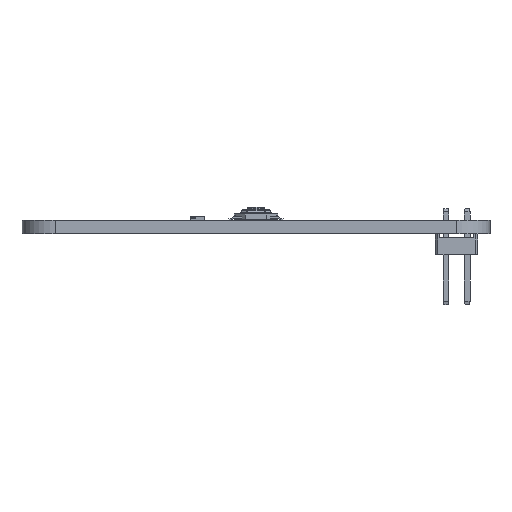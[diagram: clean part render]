
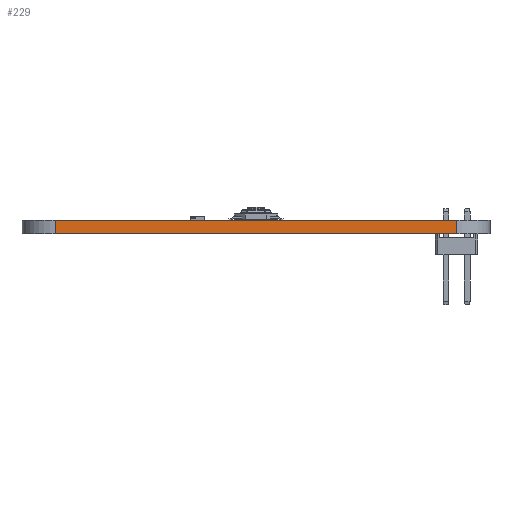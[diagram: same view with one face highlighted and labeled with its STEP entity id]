
A CAD part, front view. The second image highlights one B-rep face of the part: STEP entity #229.
In plain terms, the highlighted planar face has unit normal (0, -1, 0).
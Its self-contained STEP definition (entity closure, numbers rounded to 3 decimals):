
#202 = VERTEX_POINT('',#203);
#203 = CARTESIAN_POINT('',(24.,-38.987,    1.6));
#210 = EDGE_CURVE('',#211,#202,#213,.T.);
#211 = VERTEX_POINT('',#212);
#212 = CARTESIAN_POINT('',(24.,-38.987,0.));
#213 = LINE('',#214,#215);
#214 = CARTESIAN_POINT('',(24.,-38.987,0.));
#215 = VECTOR('',#216,1.);
#216 = DIRECTION('',(0.,0.,1.));
#229 = ADVANCED_FACE('',(#230),#255,.T.);
#230 = FACE_BOUND('',#231,.T.);
#231 = EDGE_LOOP('',(#232,#233,#241,#249));
#232 = ORIENTED_EDGE('',*,*,#210,.T.);
#233 = ORIENTED_EDGE('',*,*,#234,.T.);
#234 = EDGE_CURVE('',#202,#235,#237,.T.);
#235 = VERTEX_POINT('',#236);
#236 = CARTESIAN_POINT('',(-24.,-38.987,    1.6));
#237 = LINE('',#238,#239);
#238 = CARTESIAN_POINT('',(24.,-38.987,    1.6));
#239 = VECTOR('',#240,1.);
#240 = DIRECTION('',(-1.,0.,0.));
#241 = ORIENTED_EDGE('',*,*,#242,.F.);
#242 = EDGE_CURVE('',#243,#235,#245,.T.);
#243 = VERTEX_POINT('',#244);
#244 = CARTESIAN_POINT('',(-24.,-38.987,0.));
#245 = LINE('',#246,#247);
#246 = CARTESIAN_POINT('',(-24.,-38.987,0.));
#247 = VECTOR('',#248,1.);
#248 = DIRECTION('',(0.,0.,1.));
#249 = ORIENTED_EDGE('',*,*,#250,.F.);
#250 = EDGE_CURVE('',#211,#243,#251,.T.);
#251 = LINE('',#252,#253);
#252 = CARTESIAN_POINT('',(24.,-38.987,0.));
#253 = VECTOR('',#254,1.);
#254 = DIRECTION('',(-1.,0.,0.));
#255 = PLANE('',#256);
#256 = AXIS2_PLACEMENT_3D('',#257,#258,#259);
#257 = CARTESIAN_POINT('',(24.,-38.987,0.));
#258 = DIRECTION('',(0.,-1.,0.));
#259 = DIRECTION('',(-1.,0.,0.));
